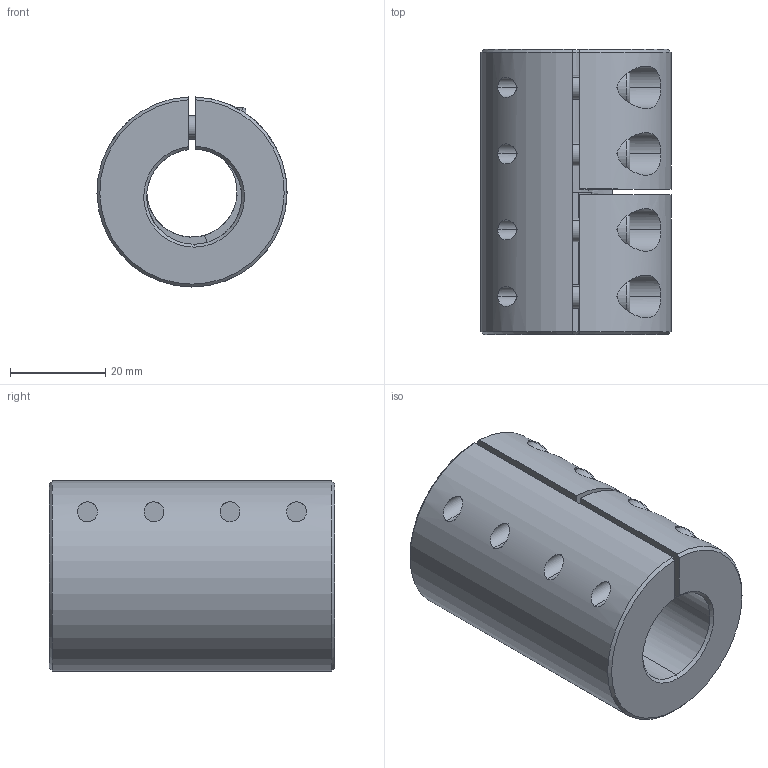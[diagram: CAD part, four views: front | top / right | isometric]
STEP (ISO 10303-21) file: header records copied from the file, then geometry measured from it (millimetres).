
FILE_DESCRIPTION (( 'STEP AP214' ), '1' );
FILE_NAME ('LL-B-D40L60-19-20½¨Ä£.STEP', '2022-07-22T01:05:21', ( '' ), ( '' ), 'SwSTEP 2.0', 'SolidWorks 2022', '' );
FILE_SCHEMA (( 'AUTOMOTIVE_DESIGN' ));
Length unit declared in the file: millimetre
Products named in the file (1): LL-B-D40L60-19-20膘耀
Bounding box: 40 x 60 x 39.99 mm (x, y, z)
Volume: 54515.9 mm3; surface area: 17508.9 mm2
Topology: 1 solids, 1 shells, 177 faces, 446 edges, 279 vertices
Faces by surface type: plane 85, cylinder 70, cone 14, torus 8
Entity records: 5827 total; most frequent: CARTESIAN_POINT 1479, DIRECTION 947, ORIENTED_EDGE 876, EDGE_CURVE 438, AXIS2_PLACEMENT_3D 371, VERTEX_POINT 279, EDGE_LOOP 209, VECTOR 205
